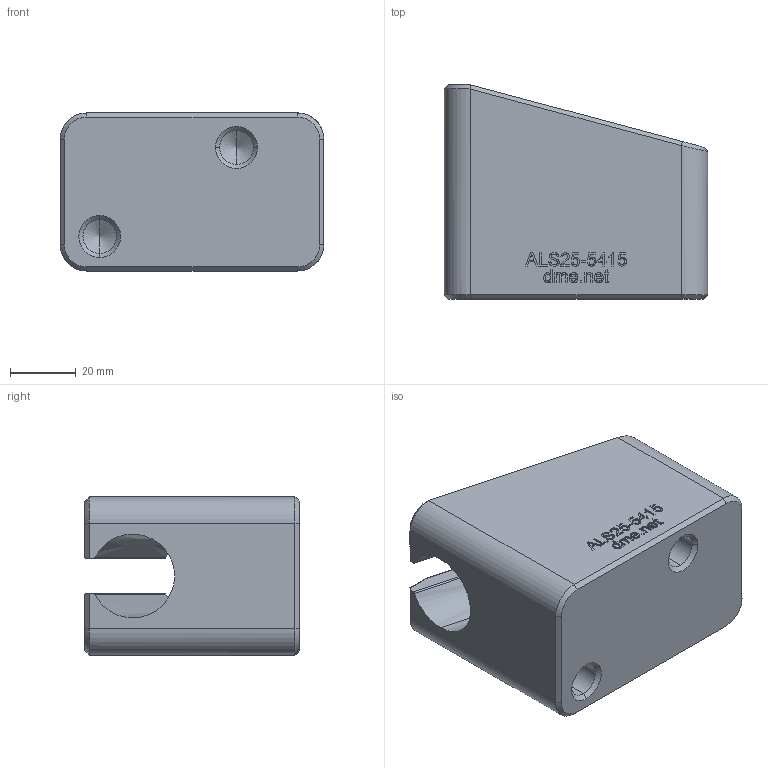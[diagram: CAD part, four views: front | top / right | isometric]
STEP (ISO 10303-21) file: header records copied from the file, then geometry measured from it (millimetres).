
FILE_DESCRIPTION (( 'STEP AP203' ), '1' );
FILE_NAME ('ALS25-5415.STEP', '2021-01-11T16:34:20', ( '' ), ( '' ), 'SwSTEP 2.0', 'SolidWorks 2020', '' );
FILE_SCHEMA (( 'CONFIG_CONTROL_DESIGN' ));
Length unit declared in the file: millimetre
Products named in the file (1): ALS25-5415
Bounding box: 80 x 65 x 48 mm (x, y, z)
Volume: 165368.2 mm3; surface area: 26541.5 mm2
Topology: 1 solids, 1 shells, 288 faces, 768 edges, 502 vertices
Faces by surface type: plane 156, bspline 104, cone 14, cylinder 14
Entity records: 14433 total; most frequent: CARTESIAN_POINT 7945, ORIENTED_EDGE 1528, DIRECTION 936, EDGE_CURVE 764, LINE 514, VECTOR 514, VERTEX_POINT 502, EDGE_LOOP 312
